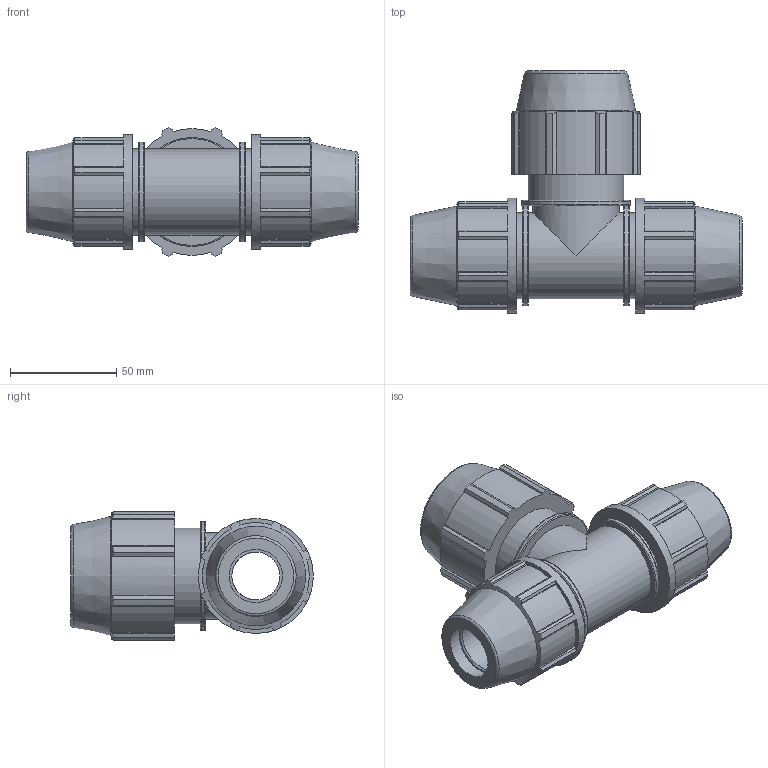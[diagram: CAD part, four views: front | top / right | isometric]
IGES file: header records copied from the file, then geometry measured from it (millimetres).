
Global section: file name: 077400025032__0774060320250A.ipt; native system: Autodesk Inventor 2015; preprocessor: unknown; author: KIM; date: 20170606.172406; units: millimetre
Bounding box: 156 x 114 x 60.22 mm (x, y, z)
Volume: 277266.3 mm3; surface area: 64127.4 mm2
Topology: 1 solids, 1 shells, 198 faces, 561 edges, 380 vertices
Faces by surface type: plane 130, cylinder 42, revolution 20, cone 6
Full cylindrical faces by diameter (mm): 40.5 x4, 44.8 x1, 46.98 x2, 51.2 x1, 54 x2
